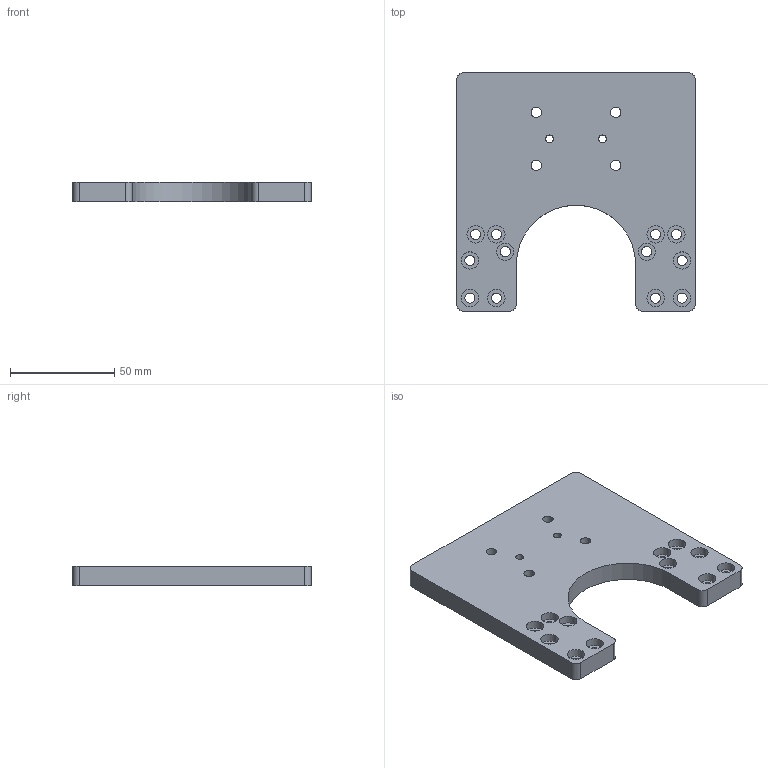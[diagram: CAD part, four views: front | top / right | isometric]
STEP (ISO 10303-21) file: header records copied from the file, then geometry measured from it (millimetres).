
FILE_DESCRIPTION( ( 'Unknown' ), '1' );
FILE_NAME( 'S:/A & P Tool/Start Button Swivel Mount/STP - IGES master files/AFSB-661-AI-RL.stp', 'Unknown', ( 'Unknown' ), ( 'Unknown' ), 'PSStep 16.0.42', 'Unknown', ' ' );
FILE_SCHEMA( ( 'AUTOMOTIVE_DESIGN { 1 0 10303 214 1 1 1 1 }' ) );
Length unit declared in the file: millimetre
Products named in the file (1): 1
Bounding box: 114.3 x 114.3 x 9.53 mm (x, y, z)
Volume: 95279.8 mm3; surface area: 28439.6 mm2
Topology: 1 solids, 1 shells, 58 faces, 146 edges, 102 vertices
Faces by surface type: cylinder 37, plane 21
Full cylindrical faces by diameter (mm): 3.785 x2, 4.8 x12, 4.976 x4, 8.25 x12
Entity records: 2072 total; most frequent: DIRECTION 294, CARTESIAN_POINT 249, ORIENTED_EDGE 204, EDGE_LOOP 136, AXIS2_PLACEMENT_3D 133, EDGE_CURVE 102, FACE_OUTER_BOUND 88, VERTEX_POINT 88
